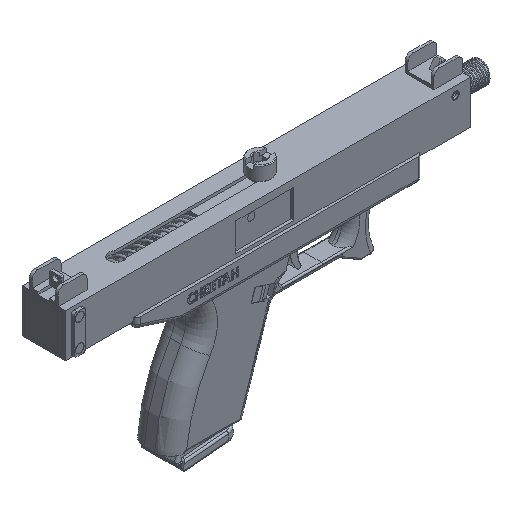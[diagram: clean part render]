
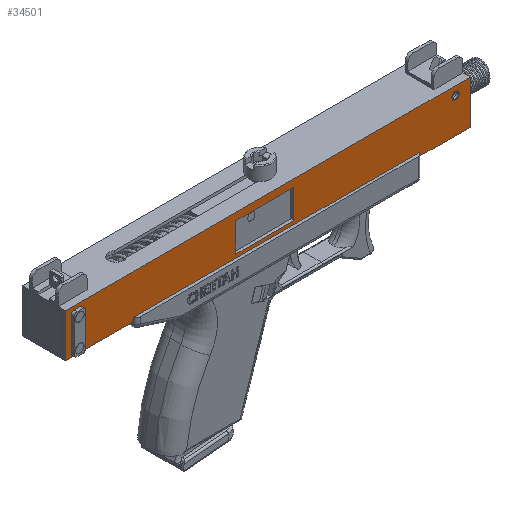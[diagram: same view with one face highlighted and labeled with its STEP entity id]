
A CAD part, isometric view. The second image highlights one B-rep face of the part: STEP entity #34501.
In plain terms, the highlighted planar face has unit normal (0, -1, 0).
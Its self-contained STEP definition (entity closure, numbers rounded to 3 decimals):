
#494=FACE_BOUND('',#6714,.T.);
#495=FACE_BOUND('',#6715,.T.);
#496=FACE_BOUND('',#6716,.T.);
#497=FACE_BOUND('',#6717,.T.);
#2940=CIRCLE('',#36970,2.991);
#2941=CIRCLE('',#36972,2.994);
#2950=CIRCLE('',#36991,2.5);
#4703=FACE_OUTER_BOUND('',#6713,.T.);
#6713=EDGE_LOOP('',(#26984,#26985,#26986,#26987));
#6714=EDGE_LOOP('',(#26988));
#6715=EDGE_LOOP('',(#26989));
#6716=EDGE_LOOP('',(#26990));
#6717=EDGE_LOOP('',(#26991,#26992,#26993,#26994));
#9160=LINE('',#68717,#12061);
#9188=LINE('',#68785,#12089);
#9190=LINE('',#68789,#12091);
#9191=LINE('',#68791,#12092);
#9192=LINE('',#68792,#12093);
#9193=LINE('',#68794,#12094);
#9194=LINE('',#68796,#12095);
#9195=LINE('',#68797,#12096);
#12061=VECTOR('',#41796,10.);
#12089=VECTOR('',#41864,10.);
#12091=VECTOR('',#41868,10.);
#12092=VECTOR('',#41869,10.);
#12093=VECTOR('',#41870,10.);
#12094=VECTOR('',#41871,10.);
#12095=VECTOR('',#41872,10.);
#12096=VECTOR('',#41873,10.);
#15215=VERTEX_POINT('',#68652);
#15216=VERTEX_POINT('',#68656);
#15242=VERTEX_POINT('',#68714);
#15243=VERTEX_POINT('',#68716);
#15259=VERTEX_POINT('',#68761);
#15262=VERTEX_POINT('',#68782);
#15263=VERTEX_POINT('',#68784);
#15264=VERTEX_POINT('',#68788);
#15265=VERTEX_POINT('',#68790);
#15266=VERTEX_POINT('',#68793);
#15267=VERTEX_POINT('',#68795);
#19376=EDGE_CURVE('',#15215,#15215,#2940,.T.);
#19377=EDGE_CURVE('',#15216,#15216,#2941,.T.);
#19406=EDGE_CURVE('',#15242,#15243,#9160,.T.);
#19430=EDGE_CURVE('',#15259,#15259,#2950,.T.);
#19440=EDGE_CURVE('',#15263,#15262,#9188,.T.);
#19442=EDGE_CURVE('',#15264,#15242,#9190,.T.);
#19443=EDGE_CURVE('',#15265,#15264,#9191,.T.);
#19444=EDGE_CURVE('',#15243,#15265,#9192,.T.);
#19445=EDGE_CURVE('',#15266,#15263,#9193,.T.);
#19446=EDGE_CURVE('',#15262,#15267,#9194,.T.);
#19447=EDGE_CURVE('',#15266,#15267,#9195,.T.);
#26984=ORIENTED_EDGE('',*,*,#19406,.F.);
#26985=ORIENTED_EDGE('',*,*,#19442,.F.);
#26986=ORIENTED_EDGE('',*,*,#19443,.F.);
#26987=ORIENTED_EDGE('',*,*,#19444,.F.);
#26988=ORIENTED_EDGE('',*,*,#19376,.T.);
#26989=ORIENTED_EDGE('',*,*,#19377,.T.);
#26990=ORIENTED_EDGE('',*,*,#19430,.T.);
#26991=ORIENTED_EDGE('',*,*,#19445,.T.);
#26992=ORIENTED_EDGE('',*,*,#19440,.T.);
#26993=ORIENTED_EDGE('',*,*,#19446,.T.);
#26994=ORIENTED_EDGE('',*,*,#19447,.F.);
#33097=PLANE('',#37000);
#34501=ADVANCED_FACE('',(#4703,#494,#495,#496,#497),#33097,.T.);
#36970=AXIS2_PLACEMENT_3D('',#68654,#41751,#41752);
#36972=AXIS2_PLACEMENT_3D('',#68657,#41755,#41756);
#36991=AXIS2_PLACEMENT_3D('',#68763,#41837,#41838);
#37000=AXIS2_PLACEMENT_3D('',#68787,#41866,#41867);
#41751=DIRECTION('center_axis',(0.,1.,0.));
#41752=DIRECTION('ref_axis',(1.,0.,0.));
#41755=DIRECTION('center_axis',(0.,1.,0.));
#41756=DIRECTION('ref_axis',(1.,0.,0.));
#41796=DIRECTION('',(-1.,0.,0.));
#41837=DIRECTION('center_axis',(0.,1.,0.));
#41838=DIRECTION('ref_axis',(1.,0.,0.));
#41864=DIRECTION('',(0.,0.,1.));
#41866=DIRECTION('center_axis',(0.,-1.,0.));
#41867=DIRECTION('ref_axis',(0.,0.,
-1.));
#41868=DIRECTION('',(0.,0.,-1.));
#41869=DIRECTION('',(1.,0.,0.));
#41870=DIRECTION('',(0.,0.,1.));
#41871=DIRECTION('',(-1.,0.,0.));
#41872=DIRECTION('',(1.,0.,0.));
#41873=DIRECTION('',(0.,0.,1.));
#68652=CARTESIAN_POINT('',(-14.626,-15.,-14.7));
#68654=CARTESIAN_POINT('Origin',(-11.635,-15.,-14.7));
#68656=CARTESIAN_POINT('',(-14.629,-15.,4.3));
#68657=CARTESIAN_POINT('Origin',(-11.635,-15.,4.3));
#68714=CARTESIAN_POINT('',(261.362,-15.,-20.184));
#68716=CARTESIAN_POINT('',(-18.638,-15.,-20.184));
#68717=CARTESIAN_POINT('',(18.362,-15.,-20.184));
#68761=CARTESIAN_POINT('',(248.862,-15.,3.816));
#68763=CARTESIAN_POINT('Origin',(251.362,-15.,3.816));
#68782=CARTESIAN_POINT('',(99.362,-15.,4.816));
#68784=CARTESIAN_POINT('',(99.362,-15.,-15.184));
#68785=CARTESIAN_POINT('',(99.362,-15.,-2.684));
#68787=CARTESIAN_POINT('Origin',(18.362,-15.,9.816));
#68788=CARTESIAN_POINT('',(261.362,-15.,9.816));
#68789=CARTESIAN_POINT('',(261.362,-15.,9.816));
#68790=CARTESIAN_POINT('',(-18.638,-15.,9.816));
#68791=CARTESIAN_POINT('',(18.362,-15.,9.816));
#68792=CARTESIAN_POINT('',(-18.638,-15.,9.816));
#68793=CARTESIAN_POINT('',(139.362,-15.,-15.184));
#68794=CARTESIAN_POINT('',(64.862,-15.,-15.184));
#68795=CARTESIAN_POINT('',(139.362,-15.,4.816));
#68796=CARTESIAN_POINT('',(64.862,-15.,4.816));
#68797=CARTESIAN_POINT('',(139.362,-15.,7.316));
